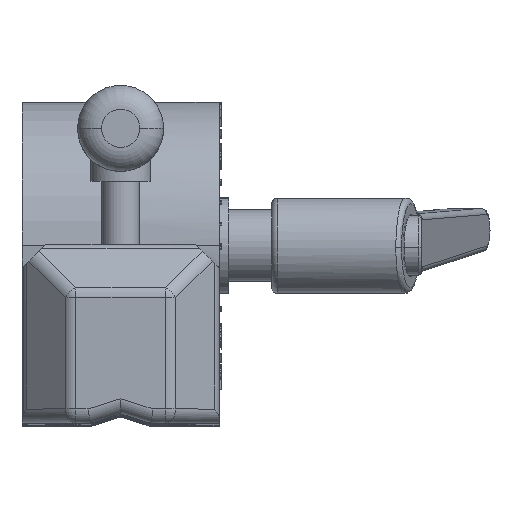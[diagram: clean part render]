
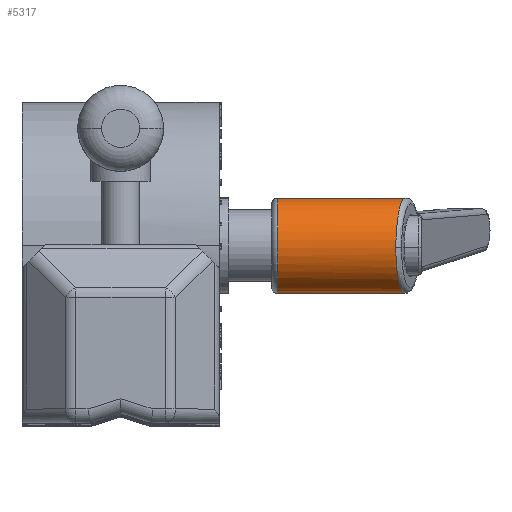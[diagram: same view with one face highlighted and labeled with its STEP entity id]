
A CAD part, top view. The second image highlights one B-rep face of the part: STEP entity #5317.
In plain terms, the highlighted cylindrical face has radius 10 mm (diameter 20 mm), a partial arc.
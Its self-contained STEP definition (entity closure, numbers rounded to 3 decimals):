
#2677 = ORIENTED_EDGE ( 'NONE', *, *, #3782, .F. ) ;
#2683 = ORIENTED_EDGE ( 'NONE', *, *, #3789, .T. ) ;
#2685 = ORIENTED_EDGE ( 'NONE', *, *, #3784, .T. ) ;
#2860 = ORIENTED_EDGE ( 'NONE', *, *, #3817, .T. ) ;
#2863 = ORIENTED_EDGE ( 'NONE', *, *, #3835, .T. ) ;
#3782 = EDGE_CURVE ( 'NONE', #21915, #21914, #18275, .T. ) ;
#3784 = EDGE_CURVE ( 'NONE', #22014, #21888, #18284, .T. ) ;
#3789 = EDGE_CURVE ( 'NONE', #21915, #21946, #5029, .T. ) ;
#3817 = EDGE_CURVE ( 'NONE', #21946, #22014, #5201, .T. ) ;
#3835 = EDGE_CURVE ( 'NONE', #21888, #21914, #18330, .T. ) ;
#5029 =( BOUNDED_CURVE ( )  B_SPLINE_CURVE ( 3, ( #6968, #6963, #6962, #6961 ),
 .UNSPECIFIED., .F., .T. ) 
 B_SPLINE_CURVE_WITH_KNOTS ( ( 4, 4 ),
 ( 4.712, 6.283 ),
 .UNSPECIFIED. ) 
 CURVE ( )  GEOMETRIC_REPRESENTATION_ITEM ( )  RATIONAL_B_SPLINE_CURVE ( ( 1., 0.805, 0.805, 1. ) ) 
 REPRESENTATION_ITEM ( '' )  );
#5201 =( BOUNDED_CURVE ( )  B_SPLINE_CURVE ( 3, ( #7090, #7007, #7008, #7009 ),
 .UNSPECIFIED., .F., .T. ) 
 B_SPLINE_CURVE_WITH_KNOTS ( ( 4, 4 ),
 ( 0., 1.571 ),
 .UNSPECIFIED. ) 
 CURVE ( )  GEOMETRIC_REPRESENTATION_ITEM ( )  RATIONAL_B_SPLINE_CURVE ( ( 1., 0.805, 0.805, 1. ) ) 
 REPRESENTATION_ITEM ( '' )  );
#5317 = ADVANCED_FACE ( 'NONE', ( #28281 ), #28283, .T. ) ;
#6938 = DIRECTION ( 'NONE',  ( -1., 0., 0. ) ) ;
#6939 = CARTESIAN_POINT ( 'NONE',  ( 3.25, 47.489, 200.46 ) ) ;
#6949 = DIRECTION ( 'NONE',  ( -1., 0., 0. ) ) ;
#6950 = CARTESIAN_POINT ( 'NONE',  ( 3.25, 27.511, 199.54 ) ) ;
#6961 = CARTESIAN_POINT ( 'NONE',  ( 78.227, 37.04, 209.989 ) ) ;
#6962 = CARTESIAN_POINT ( 'NONE',  ( 78.227, 31.189, 209.72 ) ) ;
#6963 = CARTESIAN_POINT ( 'NONE',  ( 79.014, 27.241, 205.392 ) ) ;
#6968 = CARTESIAN_POINT ( 'NONE',  ( 80.126, 27.511, 199.54 ) ) ;
#7007 = CARTESIAN_POINT ( 'NONE',  ( 78.227, 42.892, 210.259 ) ) ;
#7008 = CARTESIAN_POINT ( 'NONE',  ( 79.014, 47.22, 206.311 ) ) ;
#7009 = CARTESIAN_POINT ( 'NONE',  ( 80.126, 47.489, 200.46 ) ) ;
#7090 = CARTESIAN_POINT ( 'NONE',  ( 78.227, 37.04, 209.989 ) ) ;
#7108 = DIRECTION ( 'NONE',  ( 0., 0.999, 0.046 ) ) ;
#7134 = DIRECTION ( 'NONE',  ( 1., 0., 0. ) ) ;
#7173 = CARTESIAN_POINT ( 'NONE',  ( 53.472, 37.5, 200. ) ) ;
#9207 = AXIS2_PLACEMENT_3D ( 'NONE', #7173, #7134, #7108 ) ;
#9591 = AXIS2_PLACEMENT_3D ( 'NONE', #13434, #13792, #13664 ) ;
#13434 = CARTESIAN_POINT ( 'NONE',  ( 3.25, 37.5, 200. ) ) ;
#13664 = DIRECTION ( 'NONE',  ( 0., 0.999, 0.046 ) ) ;
#13792 = DIRECTION ( 'NONE',  ( -1., 0., 0. ) ) ;
#18275 = LINE ( 'NONE', #6950, #18283 ) ;
#18281 = VECTOR ( 'NONE', #6938, 1000. ) ;
#18283 = VECTOR ( 'NONE', #6949, 1000. ) ;
#18284 = LINE ( 'NONE', #6939, #18281 ) ;
#18330 = CIRCLE ( 'NONE', #9207, 10. ) ;
#21888 = VERTEX_POINT ( 'NONE', #25685 ) ;
#21914 = VERTEX_POINT ( 'NONE', #25652 ) ;
#21915 = VERTEX_POINT ( 'NONE', #25651 ) ;
#21946 = VERTEX_POINT ( 'NONE', #25608 ) ;
#22014 = VERTEX_POINT ( 'NONE', #25534 ) ;
#25534 = CARTESIAN_POINT ( 'NONE',  ( 80.126, 47.489, 200.46 ) ) ;
#25608 = CARTESIAN_POINT ( 'NONE',  ( 78.227, 37.04, 209.989 ) ) ;
#25651 = CARTESIAN_POINT ( 'NONE',  ( 80.126, 27.511, 199.54 ) ) ;
#25652 = CARTESIAN_POINT ( 'NONE',  ( 53.472, 27.511, 199.54 ) ) ;
#25685 = CARTESIAN_POINT ( 'NONE',  ( 53.472, 47.489, 200.46 ) ) ;
#25892 = EDGE_LOOP ( 'NONE', ( #2677, #2683, #2860, #2685, #2863 ) ) ;
#28281 = FACE_OUTER_BOUND ( 'NONE', #25892, .T. ) ;
#28283 = CYLINDRICAL_SURFACE ( 'NONE', #9591, 10. ) ;
